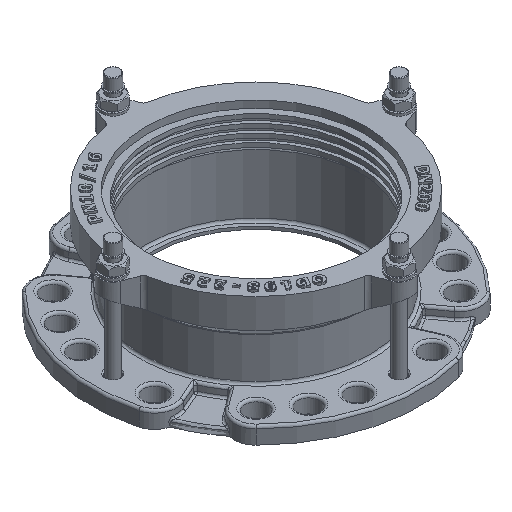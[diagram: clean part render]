
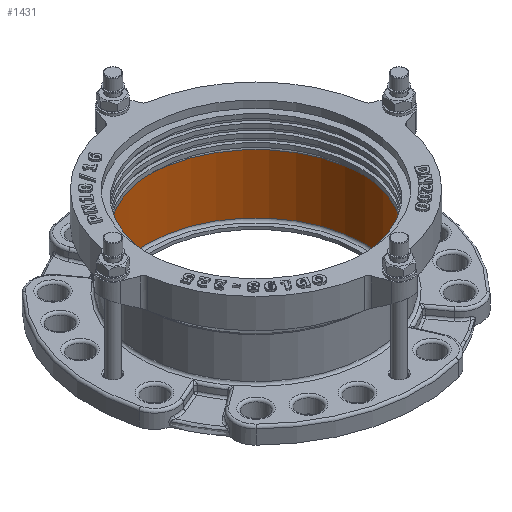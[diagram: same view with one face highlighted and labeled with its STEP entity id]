
A CAD part, isometric view. The second image highlights one B-rep face of the part: STEP entity #1431.
In plain terms, the highlighted cylindrical face has radius 112.5 mm (diameter 225 mm), a full revolution.
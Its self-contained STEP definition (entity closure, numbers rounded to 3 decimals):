
#1431=ADVANCED_FACE('',(#8690,#8692),#8694,.F.);
#8690=FACE_OUTER_BOUND('',#8691,.T.);
#8691=EDGE_LOOP('',(#16235));
#8692=FACE_OUTER_BOUND('',#8693,.T.);
#8693=EDGE_LOOP('',(#16236));
#8694=CYLINDRICAL_SURFACE('',#8695,112.5);
#8695=AXIS2_PLACEMENT_3D('',#8696,#8697,#8698);
#8696=CARTESIAN_POINT('',(0.,0.,3.));
#8697=DIRECTION('',(0.,0.,1.));
#8698=DIRECTION('',(-1.,0.,0.));
#16235=ORIENTED_EDGE('',*,*,#21445,.F.);
#16236=ORIENTED_EDGE('',*,*,#21438,.T.);
#21438=EDGE_CURVE('',#24183,#24183,#24184,.F.);
#21445=EDGE_CURVE('',#24192,#24192,#24193,.T.);
#24183=VERTEX_POINT('',#32602);
#24184=CIRCLE('',#32603,112.5);
#24192=VERTEX_POINT('',#32632);
#24193=CIRCLE('',#32633,112.5);
#32602=CARTESIAN_POINT('',(0.,112.5,5.5));
#32603=AXIS2_PLACEMENT_3D('',#32604,#32605,#32606);
#32604=CARTESIAN_POINT('',(0.,0.,5.5));
#32605=DIRECTION('',(0.,0.,1.));
#32606=DIRECTION('',(0.,1.,0.));
#32632=CARTESIAN_POINT('',(0.,112.5,66.25));
#32633=AXIS2_PLACEMENT_3D('',#32634,#32635,#32636);
#32634=CARTESIAN_POINT('',(0.,0.,66.25));
#32635=DIRECTION('',(0.,0.,-1.));
#32636=DIRECTION('',(0.,1.,0.));
